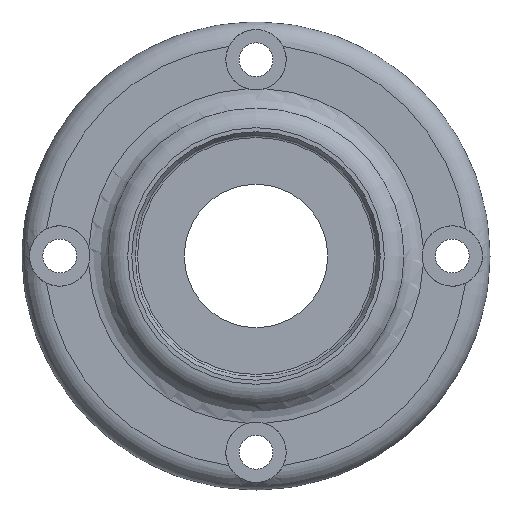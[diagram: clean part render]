
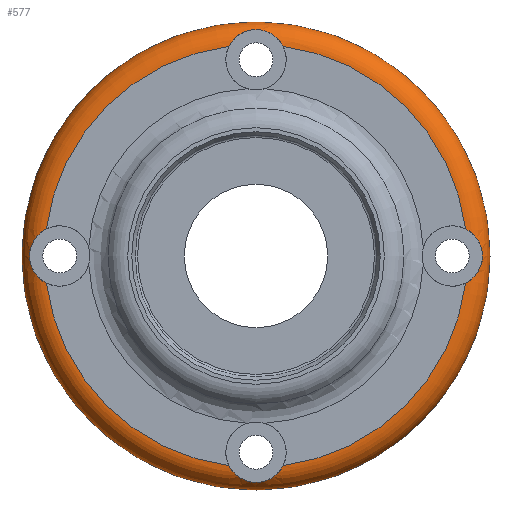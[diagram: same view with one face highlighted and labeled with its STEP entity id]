
A CAD part, left-side view. The second image highlights one B-rep face of the part: STEP entity #577.
In plain terms, the highlighted toroidal (fillet/blend) face has major radius 28 mm and minor radius 3 mm.
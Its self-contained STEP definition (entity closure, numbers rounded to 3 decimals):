
#19=B_SPLINE_CURVE_WITH_KNOTS('',3,(#1042,#1043,#1044,#1045,#1046,#1047,
#1048,#1049,#1050,#1051,#1052,#1053,#1054,#1055,#1056,#1057),
 .UNSPECIFIED.,.F.,.F.,(4,2,2,2,2,2,2,4),(-1.464,-1.304,
-1.12,-0.967,-0.841,-0.678,
-0.546,-0.49),.UNSPECIFIED.);
#20=B_SPLINE_CURVE_WITH_KNOTS('',3,(#1069,#1070,#1071,#1072,#1073,#1074,
#1075,#1076,#1077,#1078,#1079,#1080,#1081,#1082,#1083,#1084),
 .UNSPECIFIED.,.F.,.F.,(4,2,2,2,2,2,2,4),(-1.464,-1.304,
-1.12,-0.967,-0.841,-0.678,
-0.546,-0.49),.UNSPECIFIED.);
#21=B_SPLINE_CURVE_WITH_KNOTS('',3,(#1097,#1098,#1099,#1100,#1101,#1102,
#1103,#1104,#1105,#1106),.UNSPECIFIED.,.F.,.F.,(4,2,2,2,4),(-1.464,
-1.304,-1.12,-0.967,-0.944),
 .UNSPECIFIED.);
#22=B_SPLINE_CURVE_WITH_KNOTS('',3,(#1110,#1111,#1112,#1113,#1114,#1115,
#1116,#1117,#1118,#1119),.UNSPECIFIED.,.F.,.F.,(4,2,2,2,4),(-0.944,
-0.841,-0.678,-0.546,-0.49),
 .UNSPECIFIED.);
#23=B_SPLINE_CURVE_WITH_KNOTS('',3,(#1133,#1134,#1135,#1136,#1137,#1138,
#1139,#1140,#1141,#1142,#1143,#1144,#1145,#1146,#1147,#1148),
 .UNSPECIFIED.,.F.,.F.,(4,2,2,2,2,2,2,4),(-1.464,-1.304,
-1.12,-0.967,-0.841,-0.678,
-0.546,-0.49),.UNSPECIFIED.);
#27=TOROIDAL_SURFACE('',#675,28.,3.);
#88=FACE_OUTER_BOUND('',#125,.T.);
#125=EDGE_LOOP('',(#467,#468,#469,#470,#471,#472,#473,#474,#475,#476,#477,
#478,#479));
#191=CIRCLE('',#638,28.);
#195=CIRCLE('',#643,28.);
#199=CIRCLE('',#648,28.);
#203=CIRCLE('',#653,28.);
#215=CIRCLE('',#676,31.);
#216=CIRCLE('',#677,31.);
#217=CIRCLE('',#678,3.);
#249=VERTEX_POINT('',#1010);
#250=VERTEX_POINT('',#1012);
#252=VERTEX_POINT('',#1018);
#253=VERTEX_POINT('',#1020);
#255=VERTEX_POINT('',#1026);
#256=VERTEX_POINT('',#1028);
#258=VERTEX_POINT('',#1034);
#259=VERTEX_POINT('',#1036);
#266=VERTEX_POINT('',#1096);
#270=VERTEX_POINT('',#1128);
#271=VERTEX_POINT('',#1129);
#308=EDGE_CURVE('',#250,#249,#191,.T.);
#312=EDGE_CURVE('',#253,#252,#195,.T.);
#316=EDGE_CURVE('',#256,#255,#199,.T.);
#320=EDGE_CURVE('',#259,#258,#203,.T.);
#323=EDGE_CURVE('',#255,#259,#19,.T.);
#329=EDGE_CURVE('',#252,#256,#20,.T.);
#335=EDGE_CURVE('',#249,#266,#21,.T.);
#338=EDGE_CURVE('',#266,#253,#22,.T.);
#342=EDGE_CURVE('',#270,#271,#215,.T.);
#343=EDGE_CURVE('',#271,#270,#216,.T.);
#344=EDGE_CURVE('',#271,#266,#217,.T.);
#345=EDGE_CURVE('',#258,#250,#23,.T.);
#467=ORIENTED_EDGE('',*,*,#342,.F.);
#468=ORIENTED_EDGE('',*,*,#343,.F.);
#469=ORIENTED_EDGE('',*,*,#344,.T.);
#470=ORIENTED_EDGE('',*,*,#338,.T.);
#471=ORIENTED_EDGE('',*,*,#312,.T.);
#472=ORIENTED_EDGE('',*,*,#329,.T.);
#473=ORIENTED_EDGE('',*,*,#316,.T.);
#474=ORIENTED_EDGE('',*,*,#323,.T.);
#475=ORIENTED_EDGE('',*,*,#320,.T.);
#476=ORIENTED_EDGE('',*,*,#345,.T.);
#477=ORIENTED_EDGE('',*,*,#308,.T.);
#478=ORIENTED_EDGE('',*,*,#335,.T.);
#479=ORIENTED_EDGE('',*,*,#344,.F.);
#577=ADVANCED_FACE('',(#88),#27,.T.);
#638=AXIS2_PLACEMENT_3D('',#1013,#758,#759);
#643=AXIS2_PLACEMENT_3D('',#1021,#768,#769);
#648=AXIS2_PLACEMENT_3D('',#1029,#778,#779);
#653=AXIS2_PLACEMENT_3D('',#1037,#788,#789);
#675=AXIS2_PLACEMENT_3D('',#1127,#838,#839);
#676=AXIS2_PLACEMENT_3D('',#1130,#840,#841);
#677=AXIS2_PLACEMENT_3D('',#1131,#842,#843);
#678=AXIS2_PLACEMENT_3D('',#1132,#844,#845);
#758=DIRECTION('center_axis',(1.,0.,0.));
#759=DIRECTION('ref_axis',(0.,0.,-1.));
#768=DIRECTION('center_axis',(1.,0.,0.));
#769=DIRECTION('ref_axis',(0.,0.,-1.));
#778=DIRECTION('center_axis',(1.,0.,0.));
#779=DIRECTION('ref_axis',(0.,0.,-1.));
#788=DIRECTION('center_axis',(1.,0.,0.));
#789=DIRECTION('ref_axis',(0.,0.,-1.));
#838=DIRECTION('center_axis',(1.,0.,0.));
#839=DIRECTION('ref_axis',(0.,0.,-1.));
#840=DIRECTION('center_axis',(1.,0.,0.));
#841=DIRECTION('ref_axis',(0.,0.,-1.));
#842=DIRECTION('center_axis',(1.,0.,0.));
#843=DIRECTION('ref_axis',(0.,0.,-1.));
#844=DIRECTION('center_axis',(0.,-1.,0.));
#845=DIRECTION('ref_axis',(0.,0.,1.));
#1010=CARTESIAN_POINT('',(0.,3.587,27.769));
#1012=CARTESIAN_POINT('',(0.,27.769,3.587));
#1013=CARTESIAN_POINT('Origin',(0.,0.,0.));
#1018=CARTESIAN_POINT('',(0.,-27.769,3.587));
#1020=CARTESIAN_POINT('',(0.,-3.587,27.769));
#1021=CARTESIAN_POINT('Origin',(0.,0.,0.));
#1026=CARTESIAN_POINT('',(0.,-3.587,-27.769));
#1028=CARTESIAN_POINT('',(0.,-27.769,-3.587));
#1029=CARTESIAN_POINT('Origin',(0.,0.,0.));
#1034=CARTESIAN_POINT('',(0.,27.769,-3.587));
#1036=CARTESIAN_POINT('',(0.,3.587,-27.769));
#1037=CARTESIAN_POINT('Origin',(0.,0.,0.));
#1042=CARTESIAN_POINT('Ctrl Pts',(0.,-3.587,
-27.769));
#1043=CARTESIAN_POINT('Ctrl Pts',(0.,-3.399,
-28.151));
#1044=CARTESIAN_POINT('Ctrl Pts',(0.063,-3.147,
-28.508));
#1045=CARTESIAN_POINT('Ctrl Pts',(0.268,-2.475,-29.183));
#1046=CARTESIAN_POINT('Ctrl Pts',(0.416,-2.051,-29.471));
#1047=CARTESIAN_POINT('Ctrl Pts',(0.64,-1.201,-29.839));
#1048=CARTESIAN_POINT('Ctrl Pts',(0.736,-0.743,
-29.964));
#1049=CARTESIAN_POINT('Ctrl Pts',(0.777,0.189,-30.018));
#1050=CARTESIAN_POINT('Ctrl Pts',(0.743,0.601,-29.976));
#1051=CARTESIAN_POINT('Ctrl Pts',(0.576,1.517,-29.739));
#1052=CARTESIAN_POINT('Ctrl Pts',(0.424,1.999,-29.505));
#1053=CARTESIAN_POINT('Ctrl Pts',(0.18,2.76,-28.927));
#1054=CARTESIAN_POINT('Ctrl Pts',(0.082,3.061,-28.611));
#1055=CARTESIAN_POINT('Ctrl Pts',(0.012,3.412,-28.096));
#1056=CARTESIAN_POINT('Ctrl Pts',(0.,3.506,
-27.935));
#1057=CARTESIAN_POINT('Ctrl Pts',(0.,3.587,
-27.769));
#1069=CARTESIAN_POINT('Ctrl Pts',(0.,-27.769,
3.587));
#1070=CARTESIAN_POINT('Ctrl Pts',(0.,-28.151,
3.399));
#1071=CARTESIAN_POINT('Ctrl Pts',(0.063,-28.508,
3.147));
#1072=CARTESIAN_POINT('Ctrl Pts',(0.268,-29.183,2.475));
#1073=CARTESIAN_POINT('Ctrl Pts',(0.416,-29.471,2.051));
#1074=CARTESIAN_POINT('Ctrl Pts',(0.64,-29.839,1.201));
#1075=CARTESIAN_POINT('Ctrl Pts',(0.736,-29.964,0.743));
#1076=CARTESIAN_POINT('Ctrl Pts',(0.777,-30.018,-0.189));
#1077=CARTESIAN_POINT('Ctrl Pts',(0.743,-29.976,-0.601));
#1078=CARTESIAN_POINT('Ctrl Pts',(0.576,-29.739,-1.517));
#1079=CARTESIAN_POINT('Ctrl Pts',(0.424,-29.505,-1.999));
#1080=CARTESIAN_POINT('Ctrl Pts',(0.18,-28.927,-2.76));
#1081=CARTESIAN_POINT('Ctrl Pts',(0.082,-28.611,-3.061));
#1082=CARTESIAN_POINT('Ctrl Pts',(0.012,-28.096,-3.412));
#1083=CARTESIAN_POINT('Ctrl Pts',(0.,-27.935,
-3.506));
#1084=CARTESIAN_POINT('Ctrl Pts',(0.,-27.769,
-3.587));
#1096=CARTESIAN_POINT('',(0.764,0.,30.));
#1097=CARTESIAN_POINT('Ctrl Pts',(0.,3.587,
27.769));
#1098=CARTESIAN_POINT('Ctrl Pts',(0.,3.399,
28.151));
#1099=CARTESIAN_POINT('Ctrl Pts',(0.063,3.147,28.508));
#1100=CARTESIAN_POINT('Ctrl Pts',(0.268,2.475,29.183));
#1101=CARTESIAN_POINT('Ctrl Pts',(0.416,2.051,29.471));
#1102=CARTESIAN_POINT('Ctrl Pts',(0.64,1.201,29.839));
#1103=CARTESIAN_POINT('Ctrl Pts',(0.736,0.743,29.964));
#1104=CARTESIAN_POINT('Ctrl Pts',(0.762,0.153,29.998));
#1105=CARTESIAN_POINT('Ctrl Pts',(0.764,0.076,
30.));
#1106=CARTESIAN_POINT('Ctrl Pts',(0.764,0.,
30.));
#1110=CARTESIAN_POINT('Ctrl Pts',(0.764,0.,
30.));
#1111=CARTESIAN_POINT('Ctrl Pts',(0.764,-0.34,
30.));
#1112=CARTESIAN_POINT('Ctrl Pts',(0.729,-0.674,
29.957));
#1113=CARTESIAN_POINT('Ctrl Pts',(0.576,-1.517,29.739));
#1114=CARTESIAN_POINT('Ctrl Pts',(0.424,-1.999,29.505));
#1115=CARTESIAN_POINT('Ctrl Pts',(0.18,-2.76,28.927));
#1116=CARTESIAN_POINT('Ctrl Pts',(0.082,-3.061,
28.611));
#1117=CARTESIAN_POINT('Ctrl Pts',(0.012,-3.412,28.096));
#1118=CARTESIAN_POINT('Ctrl Pts',(0.,-3.506,
27.935));
#1119=CARTESIAN_POINT('Ctrl Pts',(0.,-3.587,
27.769));
#1127=CARTESIAN_POINT('Origin',(3.,0.,0.));
#1128=CARTESIAN_POINT('',(3.,-31.,0.));
#1129=CARTESIAN_POINT('',(3.,0.,31.));
#1130=CARTESIAN_POINT('Origin',(3.,0.,0.));
#1131=CARTESIAN_POINT('Origin',(3.,0.,0.));
#1132=CARTESIAN_POINT('Origin',(3.,0.,
28.));
#1133=CARTESIAN_POINT('Ctrl Pts',(0.,27.769,
-3.587));
#1134=CARTESIAN_POINT('Ctrl Pts',(0.,28.151,
-3.399));
#1135=CARTESIAN_POINT('Ctrl Pts',(0.063,28.508,-3.147));
#1136=CARTESIAN_POINT('Ctrl Pts',(0.268,29.183,-2.475));
#1137=CARTESIAN_POINT('Ctrl Pts',(0.416,29.471,-2.051));
#1138=CARTESIAN_POINT('Ctrl Pts',(0.64,29.839,-1.201));
#1139=CARTESIAN_POINT('Ctrl Pts',(0.736,29.964,-0.743));
#1140=CARTESIAN_POINT('Ctrl Pts',(0.777,30.018,0.189));
#1141=CARTESIAN_POINT('Ctrl Pts',(0.743,29.976,0.601));
#1142=CARTESIAN_POINT('Ctrl Pts',(0.576,29.739,1.517));
#1143=CARTESIAN_POINT('Ctrl Pts',(0.424,29.505,1.999));
#1144=CARTESIAN_POINT('Ctrl Pts',(0.18,28.927,2.76));
#1145=CARTESIAN_POINT('Ctrl Pts',(0.082,28.611,3.061));
#1146=CARTESIAN_POINT('Ctrl Pts',(0.012,28.096,3.412));
#1147=CARTESIAN_POINT('Ctrl Pts',(0.,27.935,
3.506));
#1148=CARTESIAN_POINT('Ctrl Pts',(0.,27.769,
3.587));
